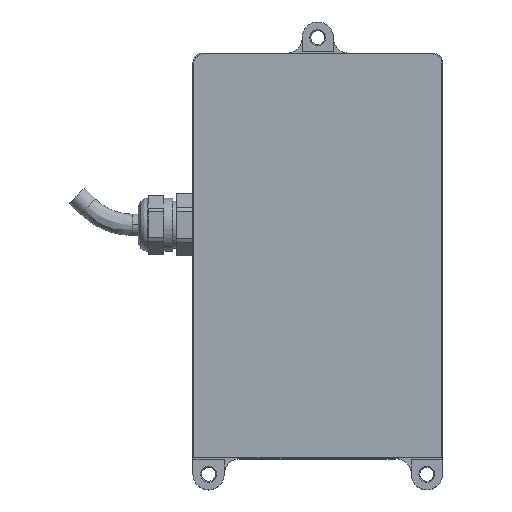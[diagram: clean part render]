
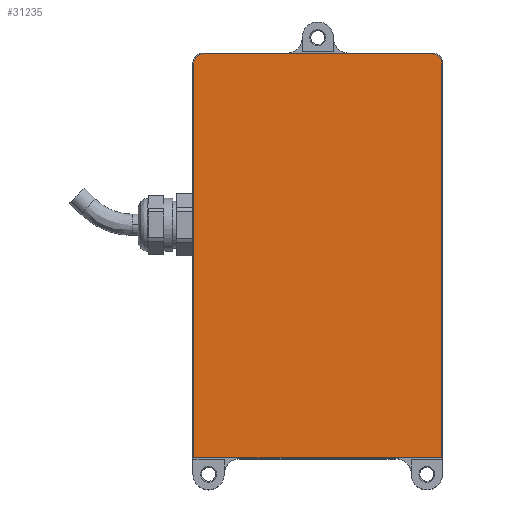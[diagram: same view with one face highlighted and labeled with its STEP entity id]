
A CAD part, top view. The second image highlights one B-rep face of the part: STEP entity #31235.
In plain terms, the highlighted planar face has unit normal (0, 0, 1).
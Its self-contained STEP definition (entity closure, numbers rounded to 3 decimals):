
#487 = CIRCLE ( 'NONE', #7694, 3. ) ;
#800 = PLANE ( 'NONE',  #26988 ) ;
#1409 = DIRECTION ( 'NONE',  ( 1., 0., 0. ) ) ;
#3653 = CARTESIAN_POINT ( 'NONE',  ( -79.75, 126.75, 34.3 ) ) ;
#4600 = VERTEX_POINT ( 'NONE', #32742 ) ;
#5110 = DIRECTION ( 'NONE',  ( 0., 1., 0. ) ) ;
#5535 = CARTESIAN_POINT ( 'NONE',  ( -76.75, 126.75, 34.3 ) ) ;
#7264 = EDGE_CURVE ( 'NONE', #28464, #4600, #37746, .T. ) ;
#7475 = LINE ( 'NONE', #19832, #9697 ) ;
#7526 = CIRCLE ( 'NONE', #21962, 3. ) ;
#7694 = AXIS2_PLACEMENT_3D ( 'NONE', #5535, #37000, #15694 ) ;
#8017 = EDGE_CURVE ( 'NONE', #43949, #23156, #40758, .T. ) ;
#8599 = DIRECTION ( 'NONE',  ( 0., 0., 1. ) ) ;
#9697 = VECTOR ( 'NONE', #37785, 1000. ) ;
#11443 = CARTESIAN_POINT ( 'NONE',  ( -79.75, 126.75, 34.3 ) ) ;
#14349 = DIRECTION ( 'NONE',  ( 0., -1., 0. ) ) ;
#15694 = DIRECTION ( 'NONE',  ( -1., 0., 0. ) ) ;
#15967 = VECTOR ( 'NONE', #5110, 1000. ) ;
#18126 = LINE ( 'NONE', #36555, #15967 ) ;
#18180 = ORIENTED_EDGE ( 'NONE', *, *, #33334, .T. ) ;
#18385 = DIRECTION ( 'NONE',  ( 0., 0., 1. ) ) ;
#18869 = VERTEX_POINT ( 'NONE', #42572 ) ;
#19191 = DIRECTION ( 'NONE',  ( -1., 0., 0. ) ) ;
#19613 = ORIENTED_EDGE ( 'NONE', *, *, #34750, .T. ) ;
#19832 = CARTESIAN_POINT ( 'NONE',  ( -76.75, 0.25, 34.3 ) ) ;
#21115 = FACE_OUTER_BOUND ( 'NONE', #25102, .T. ) ;
#21962 = AXIS2_PLACEMENT_3D ( 'NONE', #43383, #8599, #19191 ) ;
#22638 = EDGE_CURVE ( 'NONE', #23156, #38500, #7475, .T. ) ;
#23156 = VERTEX_POINT ( 'NONE', #33803 ) ;
#23556 = ORIENTED_EDGE ( 'NONE', *, *, #8017, .T. ) ;
#25102 = EDGE_LOOP ( 'NONE', ( #33930, #18180, #23556, #38991, #19613, #41863 ) ) ;
#25393 = CARTESIAN_POINT ( 'NONE',  ( -76.75, 129.75, 34.3 ) ) ;
#25538 = VECTOR ( 'NONE', #14349, 1000. ) ;
#26988 = AXIS2_PLACEMENT_3D ( 'NONE', #39238, #18385, #1409 ) ;
#28464 = VERTEX_POINT ( 'NONE', #38061 ) ;
#31235 = ADVANCED_FACE ( 'NONE', ( #21115 ), #800, .T. ) ;
#32742 = CARTESIAN_POINT ( 'NONE',  ( -76.75, 129.75, 34.3 ) ) ;
#33334 = EDGE_CURVE ( 'NONE', #4600, #43949, #487, .T. ) ;
#33803 = CARTESIAN_POINT ( 'NONE',  ( -79.75, 0.25, 34.3 ) ) ;
#33930 = ORIENTED_EDGE ( 'NONE', *, *, #7264, .T. ) ;
#34362 = CARTESIAN_POINT ( 'NONE',  ( -0.25, 0.25, 34.3 ) ) ;
#34750 = EDGE_CURVE ( 'NONE', #38500, #18869, #18126, .T. ) ;
#35609 = EDGE_CURVE ( 'NONE', #18869, #28464, #7526, .T. ) ;
#36020 = DIRECTION ( 'NONE',  ( -1., 0., 0. ) ) ;
#36555 = CARTESIAN_POINT ( 'NONE',  ( -0.25, 126.75, 34.3 ) ) ;
#37000 = DIRECTION ( 'NONE',  ( 0., 0., 1. ) ) ;
#37746 = LINE ( 'NONE', #25393, #39926 ) ;
#37785 = DIRECTION ( 'NONE',  ( 1., 0., 0. ) ) ;
#38061 = CARTESIAN_POINT ( 'NONE',  ( -3.25, 129.75, 34.3 ) ) ;
#38500 = VERTEX_POINT ( 'NONE', #34362 ) ;
#38991 = ORIENTED_EDGE ( 'NONE', *, *, #22638, .T. ) ;
#39238 = CARTESIAN_POINT ( 'NONE',  ( -76.75, 126.75, 34.3 ) ) ;
#39926 = VECTOR ( 'NONE', #36020, 1000. ) ;
#40758 = LINE ( 'NONE', #3653, #25538 ) ;
#41863 = ORIENTED_EDGE ( 'NONE', *, *, #35609, .T. ) ;
#42572 = CARTESIAN_POINT ( 'NONE',  ( -0.25, 126.75, 34.3 ) ) ;
#43383 = CARTESIAN_POINT ( 'NONE',  ( -3.25, 126.75, 34.3 ) ) ;
#43949 = VERTEX_POINT ( 'NONE', #11443 ) ;
